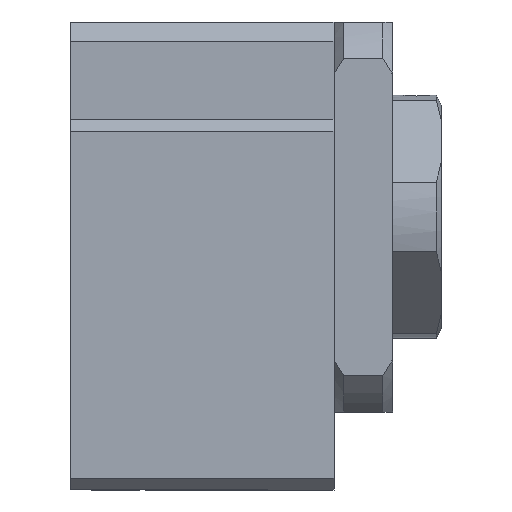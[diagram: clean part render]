
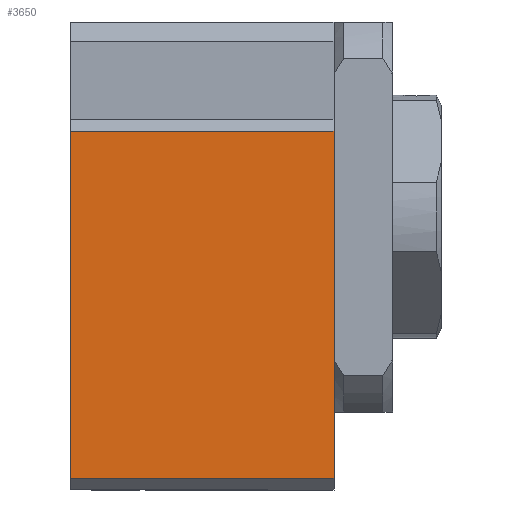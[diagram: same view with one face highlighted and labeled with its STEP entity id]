
A CAD part, left-side view. The second image highlights one B-rep face of the part: STEP entity #3650.
In plain terms, the highlighted free-form (B-spline) face has degree [1, 1] with [2, 2] control points.
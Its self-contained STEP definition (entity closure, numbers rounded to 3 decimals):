
#3430=CARTESIAN_POINT('',(-35.,8.8,0.));
#3431=VERTEX_POINT('',#3430);
#3444=CARTESIAN_POINT('',(-35.,8.8,-27.));
#3445=VERTEX_POINT('',#3444);
#3451=CARTESIAN_POINT('',(-35.,8.8,-27.));
#3452=CARTESIAN_POINT('',(-35.,8.8,0.));
#3453=B_SPLINE_CURVE_WITH_KNOTS('',1,(#3451,#3452),.POLYLINE_FORM.,.F.,.U.,(2,2),(0.,1.),.UNSPECIFIED.);
#3454=EDGE_CURVE('',#3445,#3431,#3453,.T.);
#3623=CARTESIAN_POINT('',(-35.,-58.221,-94.021));
#3624=CARTESIAN_POINT('',(-35.,75.821,-94.021));
#3625=CARTESIAN_POINT('',(-35.,-58.221,40.021));
#3626=CARTESIAN_POINT('',(-35.,75.821,40.021));
#3627=B_SPLINE_SURFACE_WITH_KNOTS('',1,1,((#3623,#3624),(#3625,#3626)),.PLANE_SURF.,.F.,.F.,.U.,(2,2),(2,2),(0.,1.),(0.,1.),.UNSPECIFIED.);
#3628=CARTESIAN_POINT('',(-35.,-26.8,0.));
#3629=VERTEX_POINT('',#3628);
#3630=CARTESIAN_POINT('',(-35.,8.8,0.));
#3631=CARTESIAN_POINT('',(-35.,-26.8,0.));
#3632=B_SPLINE_CURVE_WITH_KNOTS('',1,(#3630,#3631),.POLYLINE_FORM.,.F.,.U.,(2,2),(0.,1.),.UNSPECIFIED.);
#3633=EDGE_CURVE('',#3431,#3629,#3632,.T.);
#3634=ORIENTED_EDGE('',*,*,#3633,.F.);
#3635=ORIENTED_EDGE('',*,*,#3454,.F.);
#3636=CARTESIAN_POINT('',(-35.,-26.8,-27.));
#3637=VERTEX_POINT('',#3636);
#3638=CARTESIAN_POINT('',(-35.,-26.8,-27.));
#3639=CARTESIAN_POINT('',(-35.,8.8,-27.));
#3640=B_SPLINE_CURVE_WITH_KNOTS('',1,(#3638,#3639),.POLYLINE_FORM.,.F.,.U.,(2,2),(0.,1.),.UNSPECIFIED.);
#3641=EDGE_CURVE('',#3637,#3445,#3640,.T.);
#3642=ORIENTED_EDGE('',*,*,#3641,.F.);
#3643=CARTESIAN_POINT('',(-35.,-26.8,-27.));
#3644=CARTESIAN_POINT('',(-35.,-26.8,0.));
#3645=B_SPLINE_CURVE_WITH_KNOTS('',1,(#3643,#3644),.POLYLINE_FORM.,.F.,.U.,(2,2),(0.,1.),.UNSPECIFIED.);
#3646=EDGE_CURVE('',#3637,#3629,#3645,.T.);
#3647=ORIENTED_EDGE('',*,*,#3646,.T.);
#3648=EDGE_LOOP('',(#3634,#3635,#3642,#3647));
#3649=FACE_OUTER_BOUND('',#3648,.T.);
#3650=ADVANCED_FACE('',(#3649),#3627,.T.);
